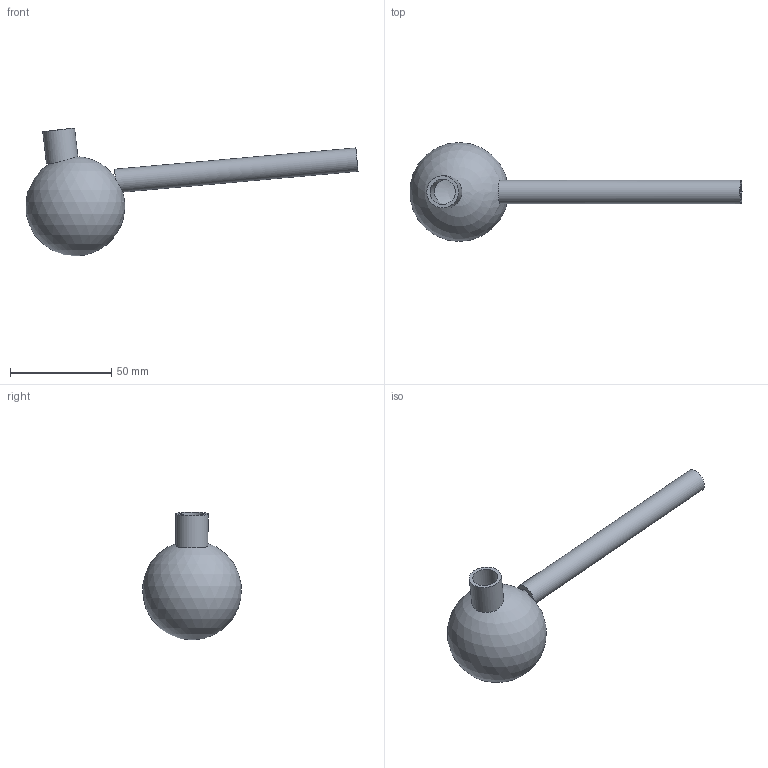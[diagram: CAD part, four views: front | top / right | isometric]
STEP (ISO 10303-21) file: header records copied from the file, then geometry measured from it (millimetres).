
FILE_DESCRIPTION(('Open CASCADE Model'),'2;1');
FILE_NAME('Open CASCADE Shape Model','2026-08-19T15:28:07',('Author'),( 'Open CASCADE'),'Open CASCADE STEP processor 7.9','Open CASCADE 7.9' ,'Unknown');
FILE_SCHEMA(('AUTOMOTIVE_DESIGN { 1 0 10303 214 1 1 1 1 }'));
Length unit declared in the file: millimetre
Products named in the file (1): Open CASCADE STEP translator 7.9 1
Bounding box: 163.75 x 48.8 x 63.09 mm (x, y, z)
Volume: 23412 mm3; surface area: 22141.7 mm2
Topology: 1 solids, 1 shells, 13 faces, 40 edges, 27 vertices
Faces by surface type: cylinder 6, plane 5, sphere 2
Full cylindrical faces by diameter (mm): 7.4 x1, 11.6 x1, 12.5 x1, 15.8 x1
Entity records: 3087 total; most frequent: CARTESIAN_POINT 2360, DIRECTION 122, ORIENTED_EDGE 76, PCURVE 76, DEFINITIONAL_REPRESENTATION 76, B_SPLINE_CURVE_WITH_KNOTS 42, CIRCLE 40, EDGE_CURVE 38
